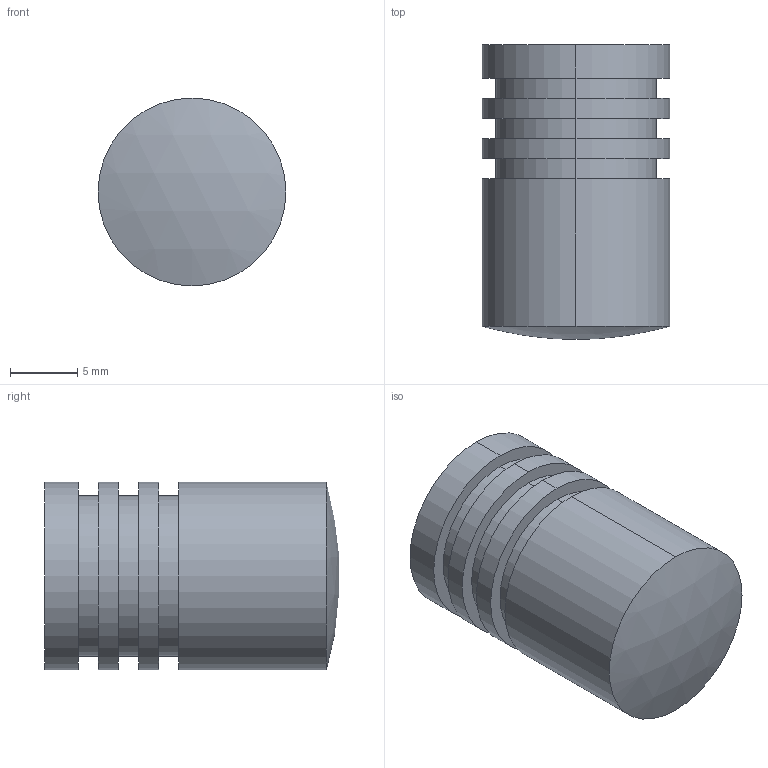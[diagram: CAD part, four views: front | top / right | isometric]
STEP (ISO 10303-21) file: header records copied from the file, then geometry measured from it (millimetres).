
FILE_DESCRIPTION( ( '' ), '1' );
FILE_NAME( 'C:/Documents and Settings/Nikhil/Desktop/Nik/Done/9070263.stp', '2013-10-24T05:28:36', ( '' ), ( '' ), ' ', ' ', ' ' );
FILE_SCHEMA( ( 'automotive_design' ) );
Length unit declared in the file: millimetre
Products named in the file (1): 1
Bounding box: 14 x 21.96 x 14 mm (x, y, z)
Volume: 2969.3 mm3; surface area: 1577.1 mm2
Topology: 1 solids, 1 shells, 25 faces, 48 edges, 32 vertices
Faces by surface type: cylinder 16, plane 8, sphere 1
Entity records: 1278 total; most frequent: DIRECTION 132, STYLED_ITEM 106, PRESENTATION_STYLE_ASSIGNMENT 106, CARTESIAN_POINT 106, COLOUR_RGB 106, ORIENTED_EDGE 96, AXIS2_PLACEMENT_3D 58, EDGE_CURVE 48
